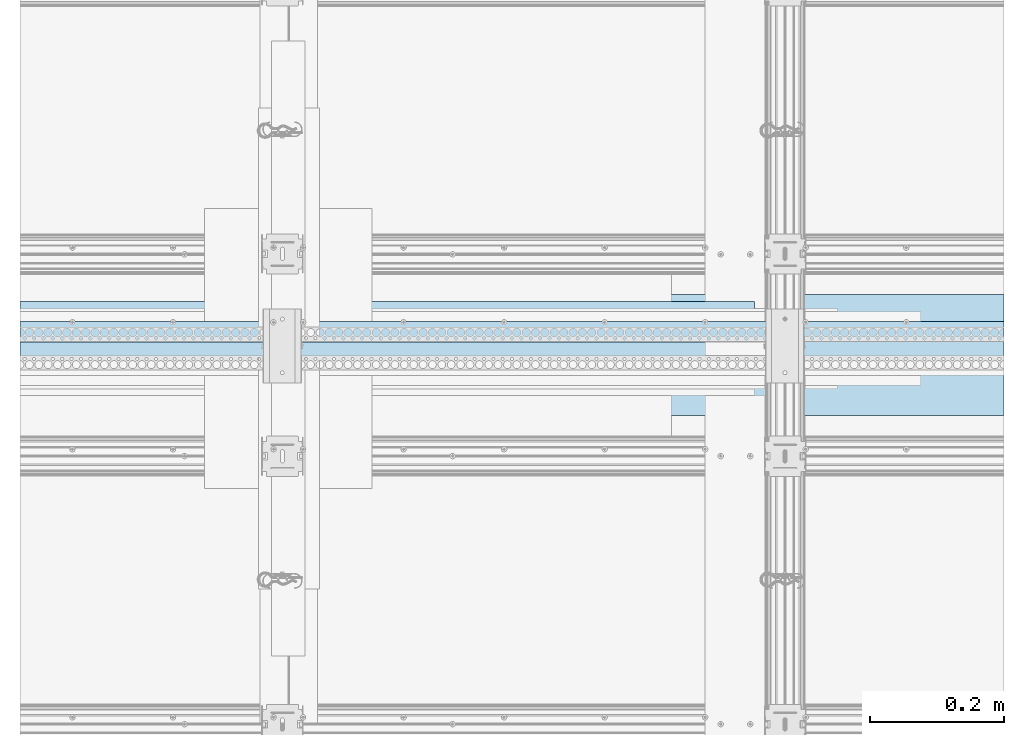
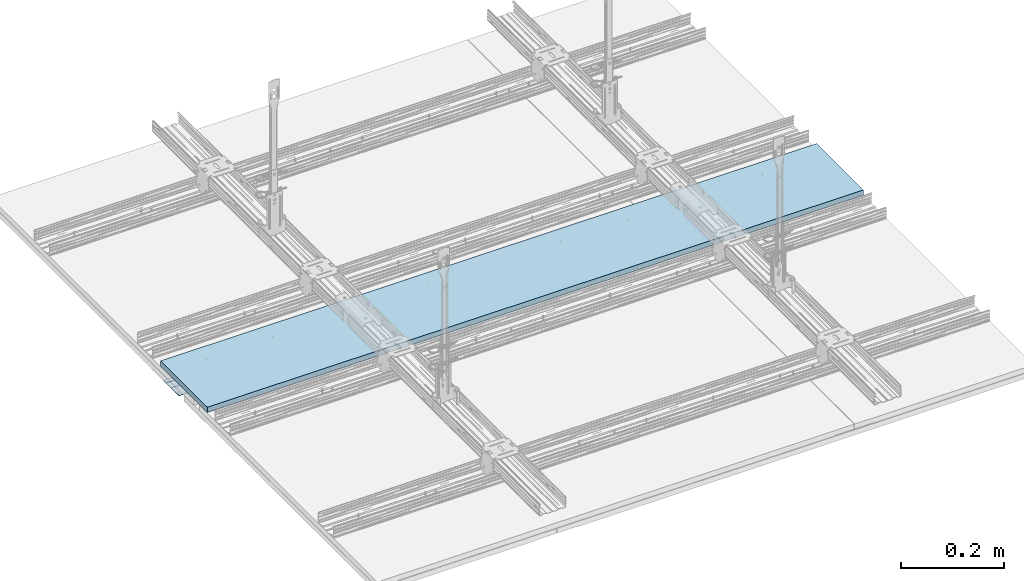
# One storey, part 1 of 73: 3 slabs.
"""IFC2X3 building model written with IfcOpenShell, lengths in millimetres."""

from ifc_helpers import new_model, entity, si_unit, converted_unit, direction, frame, origin, origin_with_axes, place, context, project, spatial, faceted_brep, element, save


model = new_model("IFC2X3")

# Units and contexts
model_context = context("Model", 3, precision=1e-05, world=origin(), true_north=direction((0.0, 1.0, 0.0)))
ifc_project = project(units=[si_unit("LENGTHUNIT", "METRE", prefix="MILLI"), si_unit("AREAUNIT", "SQUARE_METRE"), si_unit("VOLUMEUNIT", "CUBIC_METRE"), converted_unit("PLANEANGLEUNIT", "DEGREE", entity("IfcPlaneAngleMeasure", 0.01745), si_unit("PLANEANGLEUNIT", "RADIAN"), dimensions=[0, 0, 0, 0, 0, 0, 0]), si_unit("SOLIDANGLEUNIT", "STERADIAN"), si_unit("MASSUNIT", "GRAM"), si_unit("TIMEUNIT", "SECOND"), si_unit("THERMODYNAMICTEMPERATUREUNIT", "DEGREE_CELSIUS"), si_unit("LUMINOUSINTENSITYUNIT", "LUMEN")], contexts=[model_context])

# Site, building, storey
site_placement = place(None, origin_with_axes())
site = spatial("IfcSite", under=ifc_project, at=site_placement, Name="Default Site", CompositionType="ELEMENT")
building_placement = place(site_placement, origin_with_axes())
building = spatial("IfcBuilding", under=site, at=building_placement, Name="Default Building", CompositionType="ELEMENT")
storey_placement = place(building_placement, origin_with_axes())
storey = spatial("IfcBuildingStorey", under=building, at=storey_placement, Name="Default Building Storey", CompositionType="ELEMENT", Elevation=0.0)

# Slabs
slab_1_placement = place(storey_placement, frame((3326.808963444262, 1587.585698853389, 981.2852175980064), z_axis=(0.0, -1.0, 3.330669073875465e-16), x_axis=(1.0, 0.0, 0.0)))
element("IfcSlab", 1, at=slab_1_placement, inside=storey, Name="Płyta gipsowo-kartonowa RIGIPS PRO (4PRO™)", context=model_context, shape_type="Brep", body=[
    faceted_brep([(266.2316547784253, 26.00000000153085, -71.37825829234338), (266.2316547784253, 13.50000000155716, -71.37825829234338), (-1201.783829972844, 13.50000000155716, -71.37825829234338), (-1201.783829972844, 26.00000000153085, -71.37825829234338), (266.2316547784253, 13.50000000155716, 109.5498612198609), (-1201.783829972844, 13.50000000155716, 109.5498612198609), (266.2316547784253, 26.00000000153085, 109.5498612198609), (-1201.783829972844, 26.00000000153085, 109.5498612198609)], [[[0, 1, 2, 3]], [[1, 4, 5, 2]], [[4, 6, 7, 5]], [[6, 0, 3, 7]], [[7, 3, 2, 5]], [[0, 6, 4, 1]]]),
])
slab_2_placement = place(storey_placement, frame((3468.947590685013, 1638.54462359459, 967.6010906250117), z_axis=(1.935951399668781e-15, -1.0, 2.785103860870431e-12), x_axis=(1.0, 9.394034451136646e-16, -2.737324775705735e-12)))
element("IfcSlab", 2, at=slab_2_placement, inside=storey, Name="Dedykowana masa szpachlowa Rigips - konstrukcyjna", context=model_context, shape_type="Brep", body=[
    faceted_brep([(124.0930275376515, 0.0, 19.99999999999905), (-1343.922457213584, -1.262771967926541e-11, 19.99999999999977), (-1343.922457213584, 0.1841269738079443, 20.00000000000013), (124.093027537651, 0.1841269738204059, 19.99999999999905), (124.0930275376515, -1.661542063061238e-13, 49.99999999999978), (124.093027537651, 0.1841269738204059, 49.99999999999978), (-1343.922457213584, -1.262771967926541e-11, 50.0000000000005), (-1343.922457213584, 0.1841269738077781, 50.00000000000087)], [[[0, 1, 2, 3]], [[4, 0, 3, 5]], [[6, 4, 5, 7]], [[1, 6, 7, 2]], [[2, 7, 5, 3]], [[6, 1, 0, 4]]]),
])
slab_3_placement = place(storey_placement, frame((2906.719840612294, 875.7854072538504, 4087.869008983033), z_axis=(1.0, -9.982569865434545e-14, -2.658095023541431e-12), x_axis=(-1.533495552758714e-13, -1.0, 2.784465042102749e-12)))
element("IfcSlab", 3, at=slab_3_placement, inside=storey, Name="Dedykowana masa szpachlowa Rigips - konstrukcyjna", context=model_context, shape_type="Brep", body=[
    faceted_brep([(-762.4592163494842, 3120.636172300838, -781.6947071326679), (-762.4592163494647, 3120.636172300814, 314.0416950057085), (-762.4592163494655, 3119.991727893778, 314.0416950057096), (-762.4592163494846, 3119.991727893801, -781.6947071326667), (-772.4592163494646, 3119.991727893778, 314.0416950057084), (-772.4592163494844, 3119.991727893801, -781.6947071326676), (-712.4592163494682, 3120.636172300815, 314.0416950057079), (-712.4592163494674, 3120.820299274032, 314.0416950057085), (-772.4592163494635, 3120.820299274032, 314.0416950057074), (-712.4592163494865, 3120.820299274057, -781.6947071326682), (-712.4592163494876, 3120.636172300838, -781.6947071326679), (-772.459216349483, 3120.820299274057, -781.6947071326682)], [[[0, 1, 2, 3]], [[2, 4, 5, 3]], [[6, 7, 8, 4, 2, 1]], [[9, 10, 0, 3, 5, 11]], [[0, 10, 6, 1]], [[4, 8, 11, 5]], [[11, 8, 7, 9]], [[9, 7, 6, 10]]]),
])

save(model, "model.ifc")
